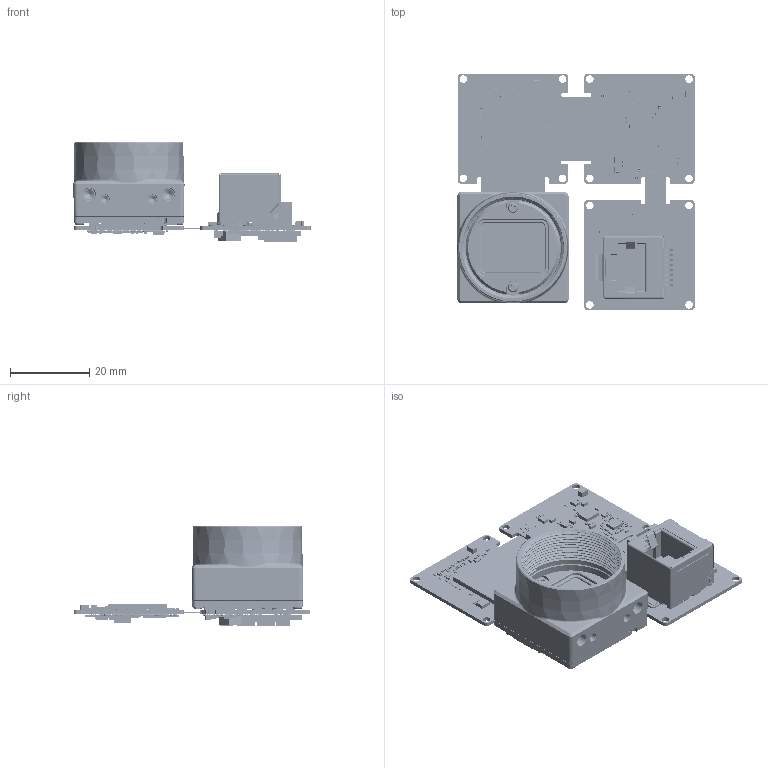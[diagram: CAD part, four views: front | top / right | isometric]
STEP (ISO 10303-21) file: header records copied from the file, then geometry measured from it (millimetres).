
FILE_DESCRIPTION (( 'STEP AP203' ), '1' );
FILE_NAME ('333-534.STEP', '2018-07-22T00:24:30', ( '' ), ( '' ), 'SwSTEP 2.0', 'SolidWorks 2017', '' );
FILE_SCHEMA (( 'CONFIG_CONTROL_DESIGN' ));
Products named in the file (1): 333-534
Bounding box: 59.74 x 59.65 x 25.2 mm (x, y, z)
Surface area: 22210.4 mm2 (no closed solid volume)
Topology: 0 solids, 680 shells, 22810 faces, 53657 edges, 28570 vertices
Faces by surface type: plane 10005, cylinder 8292, bspline 4383, cone 92, torus 36, sphere 2
Full cylindrical faces by diameter (mm): 0.099 x1, 0.177 x1, 0.206 x2, 1 x2, 1.05 x1, 1.1 x2, 1.2 x1, 1.35 x6, 1.5 x2, 1.6 x4, 1.7 x10, 1.8 x4, 1.9 x16, 2 x4, 2.5 x4, 3 x4, 24.2 x1, 24.64 x11
Entity records: 655703 total; most frequent: CARTESIAN_POINT 172595, DIRECTION 101747, ORIENTED_EDGE 98342, EDGE_CURVE 49173, AXIS2_PLACEMENT_3D 34894, VECTOR 31959, LINE 31959, VERTEX_POINT 28505
